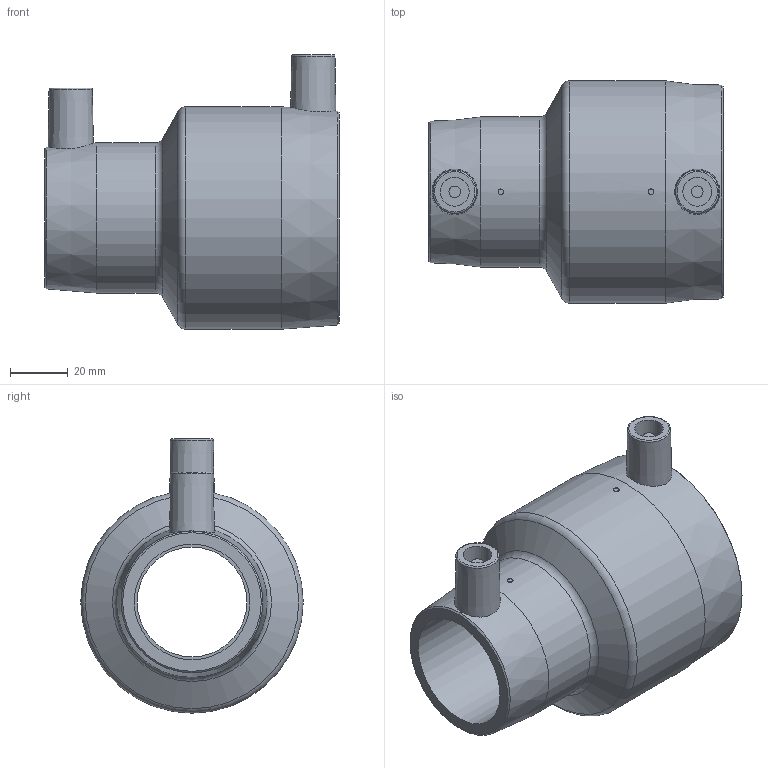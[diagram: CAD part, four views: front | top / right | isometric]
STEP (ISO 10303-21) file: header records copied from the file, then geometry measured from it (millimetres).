
FILE_DESCRIPTION(/* description */ ('Unknown'),/* implementation_level */ '2;1');
FILE_NAME(/* name */ 'REP063040C',/* time_stamp */ '2021-05-25T17:41:14+02:00',/* author */ ('Unknown'),/* organization */ ('Unknown'),/* preprocessor_version */ 'ST-DEVELOPER v16.7',/* originating_system */ 'Solid Edge',/* authorisation */ 'Unknown');
FILE_SCHEMA (('AUTOMOTIVE_DESIGN {1 0 10303 214 3 1 1}'));
Length unit declared in the file: millimetre
Products named in the file (1): REP063040C
Bounding box: 102 x 77 x 95 mm (x, y, z)
Volume: 135991.5 mm3; surface area: 45869.9 mm2
Topology: 1 solids, 1 shells, 34 faces, 74 edges, 47 vertices
Faces by surface type: cylinder 11, plane 11, cone 8, torus 4
Full cylindrical faces by diameter (mm): 2 x2, 4 x2, 10 x2, 38 x1, 40 x1, 52 x1, 63 x1, 77 x1
Entity records: 762 total; most frequent: CARTESIAN_POINT 159, DIRECTION 130, ORIENTED_EDGE 68, EDGE_LOOP 68, FACE_BOUND 68, AXIS2_PLACEMENT_3D 65, EDGE_CURVE 34, VERTEX_POINT 34
